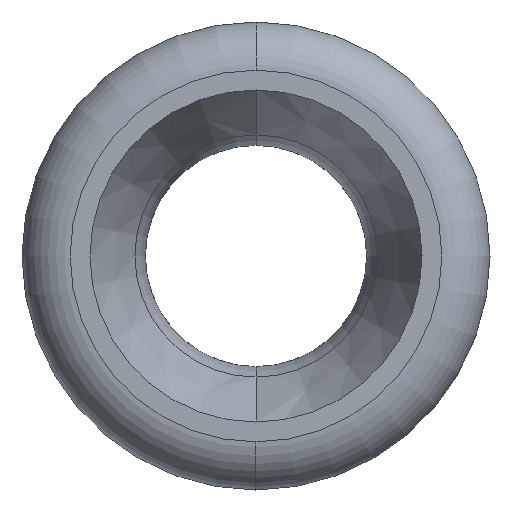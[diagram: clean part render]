
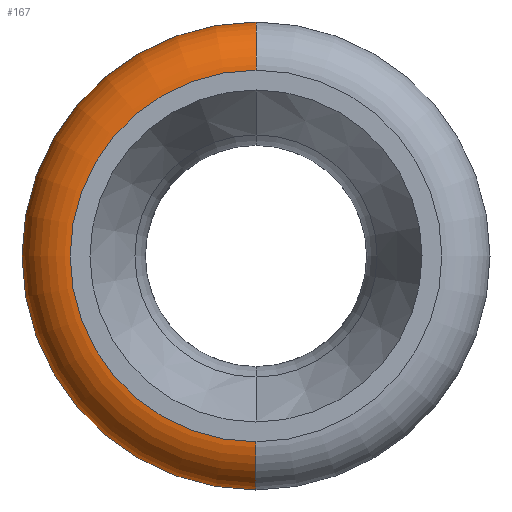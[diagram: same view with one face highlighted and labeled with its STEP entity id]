
A CAD part, left-side view. The second image highlights one B-rep face of the part: STEP entity #167.
In plain terms, the highlighted toroidal (fillet/blend) face has major radius 10.6 mm and minor radius 3 mm.
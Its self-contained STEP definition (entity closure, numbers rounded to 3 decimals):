
#167=ADVANCED_FACE('',(#376),#377,.T.);
#376=FACE_OUTER_BOUND('',#640,.T.);
#377=TOROIDAL_SURFACE('',#641,10.6,3.);
#640=EDGE_LOOP('',(#1053,#1054,#1055,#1056));
#641=AXIS2_PLACEMENT_3D('',#1057,#1058,#1059);
#1053=ORIENTED_EDGE('',*,*,#1495,.T.);
#1054=ORIENTED_EDGE('',*,*,#1577,.F.);
#1055=ORIENTED_EDGE('',*,*,#1578,.F.);
#1056=ORIENTED_EDGE('',*,*,#1579,.F.);
#1057=CARTESIAN_POINT('',(8.,0.0,0.));
#1058=DIRECTION('',(-1.0,0.0,0.));
#1059=DIRECTION('',(0.,0.0,1.0));
#1495=EDGE_CURVE('',#1724,#1723,#1768,.T.);
#1577=EDGE_CURVE('',#1890,#1723,#1891,.T.);
#1578=EDGE_CURVE('',#1892,#1890,#1893,.T.);
#1579=EDGE_CURVE('',#1724,#1892,#1894,.T.);
#1723=VERTEX_POINT('',#2060);
#1724=VERTEX_POINT('',#2061);
#1768=CIRCLE('',#2105,13.6);
#1890=VERTEX_POINT('',#2245);
#1891=CIRCLE('',#2246,3.);
#1892=VERTEX_POINT('',#2247);
#1893=CIRCLE('',#2248,10.6);
#1894=CIRCLE('',#2249,3.);
#2060=CARTESIAN_POINT('',(8.,0.,-13.6));
#2061=CARTESIAN_POINT('',(8.,0.,13.6));
#2105=AXIS2_PLACEMENT_3D('',#2502,#2503,#2504);
#2245=CARTESIAN_POINT('',(5.,0.,-10.6));
#2246=AXIS2_PLACEMENT_3D('',#2652,#2653,#2654);
#2247=CARTESIAN_POINT('',(5.,0.,10.6));
#2248=AXIS2_PLACEMENT_3D('',#2655,#2656,#2657);
#2249=AXIS2_PLACEMENT_3D('',#2658,#2659,#2660);
#2502=CARTESIAN_POINT('',(8.,0.0,0.));
#2503=DIRECTION('',(-1.0,0.0,0.));
#2504=DIRECTION('',(0.,0.0,1.0));
#2652=CARTESIAN_POINT('',(8.,0.,-10.6));
#2653=DIRECTION('',(0.,-1.0,0.));
#2654=DIRECTION('',(0.,0.,-1.0));
#2655=CARTESIAN_POINT('',(5.,0.0,0.));
#2656=DIRECTION('',(-1.0,0.0,0.));
#2657=DIRECTION('',(0.,0.0,-1.0));
#2658=CARTESIAN_POINT('',(8.,0.,10.6));
#2659=DIRECTION('',(0.,-1.0,0.));
#2660=DIRECTION('',(0.,0.,1.0));
